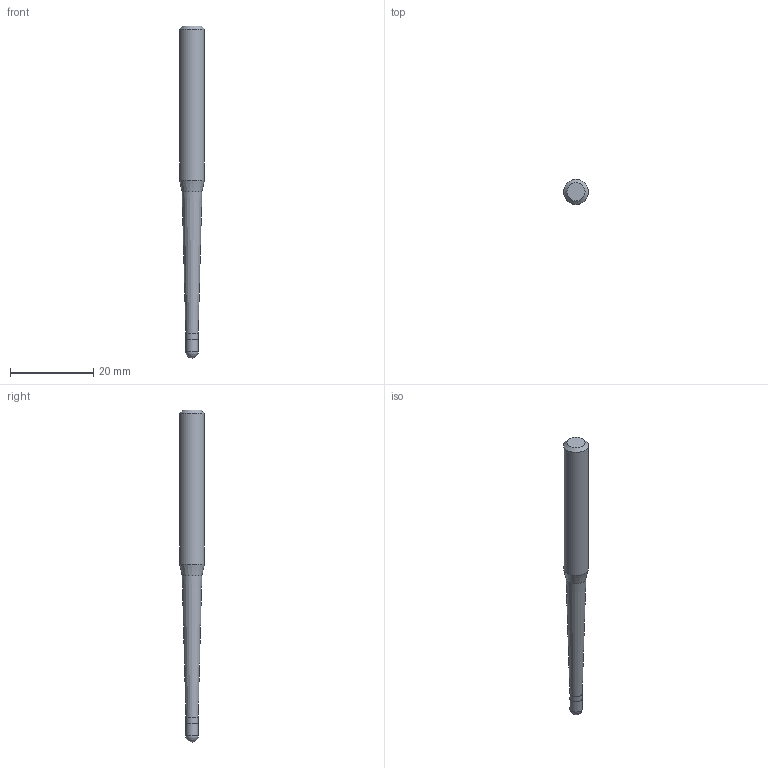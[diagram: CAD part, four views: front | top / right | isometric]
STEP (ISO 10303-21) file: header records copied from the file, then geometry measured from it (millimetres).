
FILE_DESCRIPTION((''),'2;1');
FILE_NAME('C:\Users\nsx150\AppData\Local\Temp\Mastercam 2021\E0ENTZRV18\TEMP.step','2021-09-02T09:57:26',(''),(''),'STEP Write','Mastercam 2021 ... CNC Software, Inc.','');
FILE_SCHEMA(('AUTOMOTIVE_DESIGN'));
Length unit declared in the file: millimetre
Products named in the file (1): None
Bounding box: 6 x 6 x 80 mm (x, y, z)
Volume: 1558 mm3; surface area: 1253.3 mm2
Topology: 2 solids, 2 shells, 10 faces, 16 edges, 9 vertices
Faces by surface type: plane 3, cylinder 3, cone 3, sphere 1
Full cylindrical faces by diameter (mm): 2.98 x1, 3 x1, 6 x1
Entity records: 232 total; most frequent: DIRECTION 40, CARTESIAN_POINT 28, AXIS2_PLACEMENT_3D 20, ORIENTED_EDGE 16, EDGE_LOOP 16, STYLED_ITEM 13, ADVANCED_FACE 10, FACE_BOUND 9
